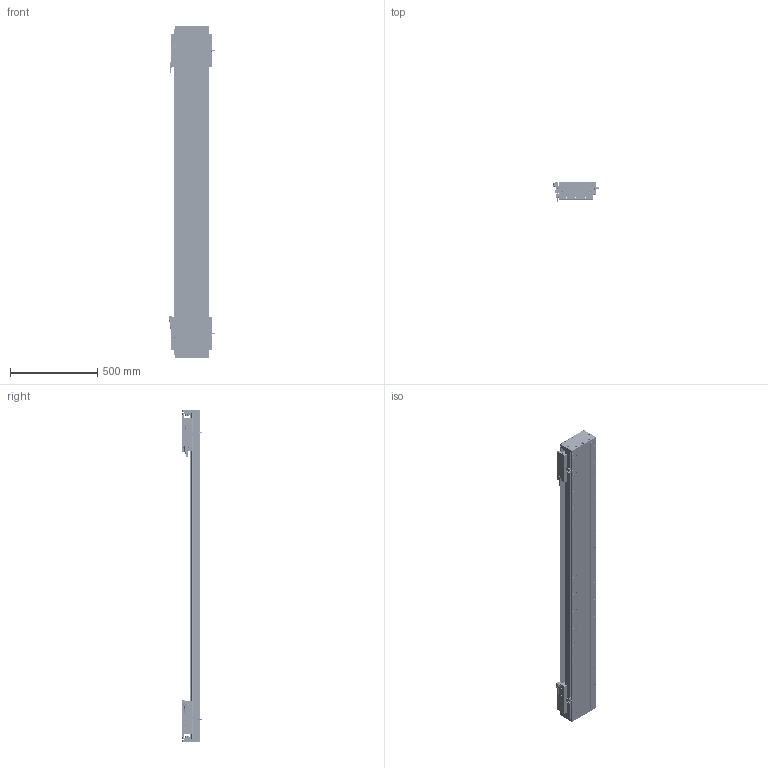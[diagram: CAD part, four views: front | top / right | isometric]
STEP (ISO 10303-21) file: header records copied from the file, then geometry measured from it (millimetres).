
FILE_DESCRIPTION (( 'STEP AP203' ), '1' );
FILE_NAME ('DA-C195-2-C2-T1400-C010-0.2 眻盄萇儂.STEP', '2025-08-14T02:04:32', ( '' ), ( '' ), 'SwSTEP 2.0', 'SolidWorks 2019', '' );
FILE_SCHEMA (( 'CONFIG_CONTROL_DESIGN' ));
Length unit declared in the file: millimetre
Products named in the file (19): IU-CU195-L-00 菁釱(L1860); PM-T45ㄗ侂狟ㄘ; DA95-HXJ-00 遣喳砎蝶; DKW-KGZ-ZJ-00 中间光电开关支架; DA195詩湍郪璃; IU-CU195-L 菁釱絳寢; DA195詩湍菜輸; 葩璃 DA95-GT-T-00; LMT黍杅芛; DA-C195-GD-DB-H-00 傷啣; DKW-GYP-ZJ-00 笢潔嫖萇覜茼え; DA195詩湍裔啣; DA-C195-2-C2-T1400-C010-0.2 眻盄萇儂; DA165-GYP-00 光电感应片(默认); MS200 棠掑喜S315-T1740; PM-Y65嫖萇羲壽郪璃; CU195-C2賑輸-俋楷; DA195詩湍嶺輸; DKW168-HXJ-ZJ-00 笢潔滅袉砎蝶
Assembly tree (37 placements, depth 3):
  DA-C195-2-C2-T1400-C010-0.2 眻盄萇儂
    DA195詩湍郪璃
      DA195詩湍菜輸  x2
      DA195詩湍裔啣
      DA195詩湍嶺輸  x2
      DA95-HXJ-00 遣喳砎蝶  x8
      DA-C195-GD-DB-H-00 傷啣  x2
    IU-CU195-L 菁釱絳寢
      IU-CU195-L-00 菁釱(L1860)
      葩璃 DA95-GT-T-00  x4
    LMT黍杅芛  x2
    MS200 棠掑喜S315-T1740
    PM-T45ㄗ侂狟ㄘ  x4
    DA165-GYP-00 光电感应片(默认)  x2
    PM-Y65嫖萇羲壽郪璃
    DKW168-HXJ-ZJ-00 笢潔滅袉砎蝶
    DKW-GYP-ZJ-00 笢潔嫖萇覜茼え
    DKW-KGZ-ZJ-00 中间光电开关支架
    CU195-C2賑輸-俋楷  x2
Bounding box: 258.2 x 115.45 x 1900 mm (x, y, z)
Volume: 12633458.1 mm3; surface area: 3601100 mm2
Topology: 114 solids, 242 shells, 6717 faces, 17471 edges, 10817 vertices
Faces by surface type: cylinder 3020, plane 2613, cone 916, torus 88, sphere 72, bspline 8
Entity records: 135947 total; most frequent: CARTESIAN_POINT 34515, ORIENTED_EDGE 20774, DIRECTION 20434, EDGE_CURVE 10387, AXIS2_PLACEMENT_3D 7497, VERTEX_POINT 6704, LINE 5440, VECTOR 5440
